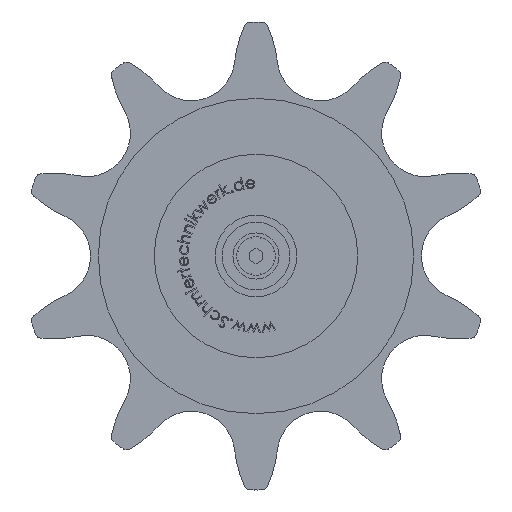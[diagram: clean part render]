
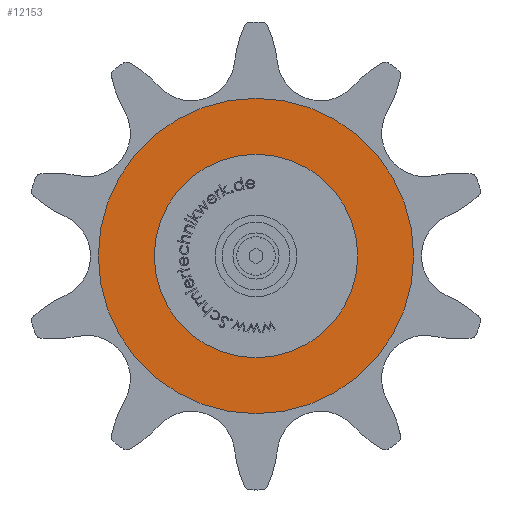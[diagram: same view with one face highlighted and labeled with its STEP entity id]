
A CAD part, left-side view. The second image highlights one B-rep face of the part: STEP entity #12153.
In plain terms, the highlighted planar face has unit normal (-1, 0, 0).
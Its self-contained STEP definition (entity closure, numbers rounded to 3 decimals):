
#152 = FACE_OUTER_BOUND ( 'NONE', #20970, .T. ) ;
#353 = ORIENTED_EDGE ( 'NONE', *, *, #557, .T. ) ;
#557 = EDGE_CURVE ( 'NONE', #7468, #7468, #11701, .T. ) ;
#690 = DIRECTION ( 'NONE',  ( 0., 0., 1. ) ) ;
#1479 = DIRECTION ( 'NONE',  ( 1., 0., 0. ) ) ;
#2175 = AXIS2_PLACEMENT_3D ( 'NONE', #17190, #5224, #690 ) ;
#3551 = AXIS2_PLACEMENT_3D ( 'NONE', #18636, #18434, #18323 ) ;
#5224 = DIRECTION ( 'NONE',  ( 1., 0., 0. ) ) ;
#5792 = CARTESIAN_POINT ( 'NONE',  ( -50., 0., 46.5 ) ) ;
#7468 = VERTEX_POINT ( 'NONE', #14169 ) ;
#7676 = ORIENTED_EDGE ( 'NONE', *, *, #13811, .F. ) ;
#11701 = CIRCLE ( 'NONE', #2175, 12. ) ;
#12153 = ADVANCED_FACE ( 'NONE', ( #152, #16787 ), #13716, .T. ) ;
#13716 = PLANE ( 'NONE',  #3551 ) ;
#13811 = EDGE_CURVE ( 'NONE', #19172, #19172, #19677, .T. ) ;
#14169 = CARTESIAN_POINT ( 'NONE',  ( -50., 0., 12. ) ) ;
#16546 = CARTESIAN_POINT ( 'NONE',  ( -50., 0., 0. ) ) ;
#16787 = FACE_BOUND ( 'NONE', #19395, .T. ) ;
#17190 = CARTESIAN_POINT ( 'NONE',  ( -50., 0., 0. ) ) ;
#17250 = AXIS2_PLACEMENT_3D ( 'NONE', #16546, #1479, #21606 ) ;
#18323 = DIRECTION ( 'NONE',  ( 0., 0., 1. ) ) ;
#18434 = DIRECTION ( 'NONE',  ( -1., 0., 0. ) ) ;
#18636 = CARTESIAN_POINT ( 'NONE',  ( -50., 0., 0. ) ) ;
#19172 = VERTEX_POINT ( 'NONE', #5792 ) ;
#19395 = EDGE_LOOP ( 'NONE', ( #353 ) ) ;
#19677 = CIRCLE ( 'NONE', #17250, 46.5 ) ;
#20970 = EDGE_LOOP ( 'NONE', ( #7676 ) ) ;
#21606 = DIRECTION ( 'NONE',  ( 0., 0., 1. ) ) ;
